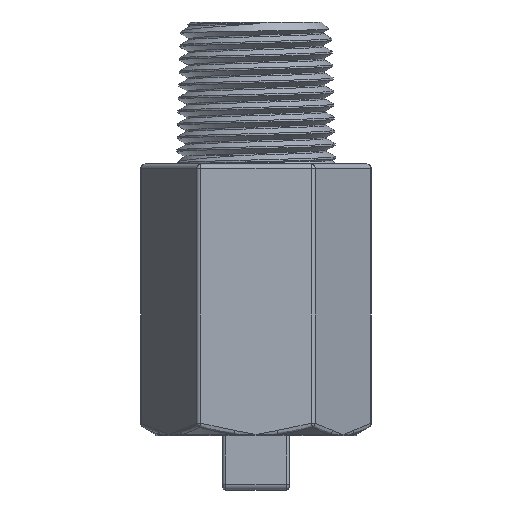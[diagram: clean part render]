
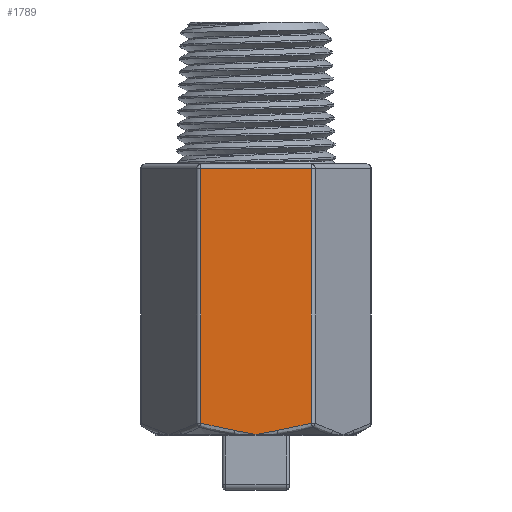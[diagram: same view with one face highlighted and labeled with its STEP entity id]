
A CAD part, front view. The second image highlights one B-rep face of the part: STEP entity #1789.
In plain terms, the highlighted planar face has unit normal (0, -1, 0).
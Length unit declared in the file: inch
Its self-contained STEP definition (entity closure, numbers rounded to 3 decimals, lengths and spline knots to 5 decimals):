
#236 = CARTESIAN_POINT ( 'NONE',  ( 0., -0.425, -0.85025 ) ) ;
#296 = ORIENTED_EDGE ( 'NONE', *, *, #13194, .T. ) ;
#536 = CARTESIAN_POINT ( 'NONE',  ( -0.23383, -0.425, 0.895 ) ) ;
#1054 = CARTESIAN_POINT ( 'NONE',  ( 0.23383, -0.425, -0.80253 ) ) ;
#1108 = CARTESIAN_POINT ( 'NONE',  ( 0.13916, -0.425, -0.82681 ) ) ;
#1696 = EDGE_CURVE ( 'NONE', #7001, #13443, #3399, .T. ) ;
#1747 = VECTOR ( 'NONE', #4898, 39.37008 ) ;
#1780 = CARTESIAN_POINT ( 'NONE',  ( 0.06004, -0.425, -0.83677 ) ) ;
#1789 = ADVANCED_FACE ( 'NONE', ( #1799 ), #9381, .F. ) ;
#1799 = FACE_OUTER_BOUND ( 'NONE', #10409, .T. ) ;
#1831 = CARTESIAN_POINT ( 'NONE',  ( 0.09055, -0.425, -0.83293 ) ) ;
#2255 = VERTEX_POINT ( 'NONE', #9461 ) ;
#2630 = EDGE_CURVE ( 'NONE', #6018, #12288, #15807, .T. ) ;
#2952 = VECTOR ( 'NONE', #9643, 39.37008 ) ;
#3345 = CARTESIAN_POINT ( 'NONE',  ( -0.23383, -0.425, 0.2744 ) ) ;
#3399 = B_SPLINE_CURVE_WITH_KNOTS ( 'NONE', 3,
 ( #8065, #10569, #1780, #1831 ),
 .UNSPECIFIED., .F., .F.,
 ( 4, 4 ),
 ( -0.00002, 0.00232 ),
 .UNSPECIFIED. ) ;
#3401 = ORIENTED_EDGE ( 'NONE', *, *, #14990, .T. ) ;
#3630 = CARTESIAN_POINT ( 'NONE',  ( -0.06004, -0.425, -0.83677 ) ) ;
#3749 = B_SPLINE_CURVE_WITH_KNOTS ( 'NONE', 3,
 ( #10032, #3630, #16255, #8767 ),
 .UNSPECIFIED., .F., .F.,
 ( 4, 4 ),
 ( 0., 0.00234 ),
 .UNSPECIFIED. ) ;
#4131 = DIRECTION ( 'NONE',  ( 0., 0., -1. ) ) ;
#4562 = CARTESIAN_POINT ( 'NONE',  ( 0.23383, -0.425, 0.895 ) ) ;
#4898 = DIRECTION ( 'NONE',  ( -1., 0., 0. ) ) ;
#4960 = CARTESIAN_POINT ( 'NONE',  ( -0.24537, -0.425, 0.2744 ) ) ;
#5050 = ORIENTED_EDGE ( 'NONE', *, *, #11167, .T. ) ;
#6018 = VERTEX_POINT ( 'NONE', #6310 ) ;
#6287 = ORIENTED_EDGE ( 'NONE', *, *, #2630, .T. ) ;
#6310 = CARTESIAN_POINT ( 'NONE',  ( 0.23383, -0.425, -0.80253 ) ) ;
#6926 = CARTESIAN_POINT ( 'NONE',  ( -0.13916, -0.425, -0.82681 ) ) ;
#6974 = CARTESIAN_POINT ( 'NONE',  ( -0.23383, -0.425, -0.80253 ) ) ;
#7001 = VERTEX_POINT ( 'NONE', #236 ) ;
#7091 = CARTESIAN_POINT ( 'NONE',  ( 0.23383, -0.425, 0.2744 ) ) ;
#7680 = AXIS2_PLACEMENT_3D ( 'NONE', #11881, #15894, #10948 ) ;
#7717 = EDGE_CURVE ( 'NONE', #13443, #6018, #10081, .T. ) ;
#8044 = VECTOR ( 'NONE', #4131, 39.37008 ) ;
#8065 = CARTESIAN_POINT ( 'NONE',  ( 0., -0.425, -0.85025 ) ) ;
#8196 = EDGE_CURVE ( 'NONE', #9838, #12930, #12561, .T. ) ;
#8516 = LINE ( 'NONE', #4960, #1747 ) ;
#8767 = CARTESIAN_POINT ( 'NONE',  ( 0., -0.425, -0.85025 ) ) ;
#8929 = B_SPLINE_CURVE_WITH_KNOTS ( 'NONE', 3,
 ( #6974, #15841, #6926, #9542 ),
 .UNSPECIFIED., .F., .F.,
 ( 4, 4 ),
 ( 0., 0.00372 ),
 .UNSPECIFIED. ) ;
#9023 = ORIENTED_EDGE ( 'NONE', *, *, #1696, .T. ) ;
#9048 = ORIENTED_EDGE ( 'NONE', *, *, #8196, .T. ) ;
#9381 = PLANE ( 'NONE',  #7680 ) ;
#9438 = ORIENTED_EDGE ( 'NONE', *, *, #7717, .T. ) ;
#9461 = CARTESIAN_POINT ( 'NONE',  ( -0.09055, -0.425, -0.83293 ) ) ;
#9542 = CARTESIAN_POINT ( 'NONE',  ( -0.09055, -0.425, -0.83293 ) ) ;
#9643 = DIRECTION ( 'NONE',  ( 0., 0., 1. ) ) ;
#9838 = VERTEX_POINT ( 'NONE', #3345 ) ;
#10032 = CARTESIAN_POINT ( 'NONE',  ( -0.09055, -0.425, -0.83293 ) ) ;
#10081 = B_SPLINE_CURVE_WITH_KNOTS ( 'NONE', 3,
 ( #13822, #1108, #15113, #1054 ),
 .UNSPECIFIED., .F., .F.,
 ( 4, 4 ),
 ( 0., 0.00372 ),
 .UNSPECIFIED. ) ;
#10409 = EDGE_LOOP ( 'NONE', ( #3401, #296, #9023, #9438, #6287, #5050, #9048 ) ) ;
#10569 = CARTESIAN_POINT ( 'NONE',  ( 0.03001, -0.425, -0.84358 ) ) ;
#10611 = CARTESIAN_POINT ( 'NONE',  ( -0.23383, -0.425, -0.80253 ) ) ;
#10948 = DIRECTION ( 'NONE',  ( -1., 0., 0. ) ) ;
#11167 = EDGE_CURVE ( 'NONE', #12288, #9838, #8516, .T. ) ;
#11881 = CARTESIAN_POINT ( 'NONE',  ( -0.24537, -0.425, 0.895 ) ) ;
#12288 = VERTEX_POINT ( 'NONE', #7091 ) ;
#12561 = LINE ( 'NONE', #536, #8044 ) ;
#12930 = VERTEX_POINT ( 'NONE', #10611 ) ;
#13194 = EDGE_CURVE ( 'NONE', #2255, #7001, #3749, .T. ) ;
#13443 = VERTEX_POINT ( 'NONE', #15411 ) ;
#13822 = CARTESIAN_POINT ( 'NONE',  ( 0.09055, -0.425, -0.83293 ) ) ;
#14990 = EDGE_CURVE ( 'NONE', #12930, #2255, #8929, .T. ) ;
#15113 = CARTESIAN_POINT ( 'NONE',  ( 0.1868, -0.425, -0.81611 ) ) ;
#15411 = CARTESIAN_POINT ( 'NONE',  ( 0.09055, -0.425, -0.83293 ) ) ;
#15807 = LINE ( 'NONE', #4562, #2952 ) ;
#15841 = CARTESIAN_POINT ( 'NONE',  ( -0.1868, -0.425, -0.81611 ) ) ;
#15894 = DIRECTION ( 'NONE',  ( 0., 1., 0. ) ) ;
#16255 = CARTESIAN_POINT ( 'NONE',  ( -0.03, -0.425, -0.84358 ) ) ;
